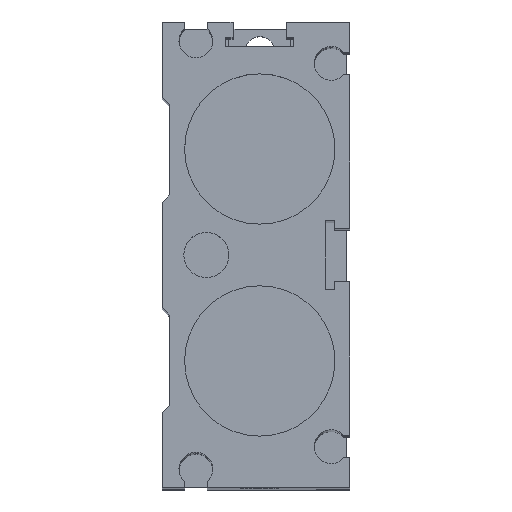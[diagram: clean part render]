
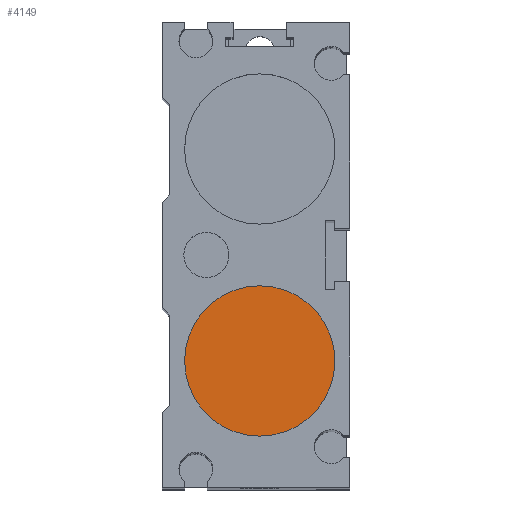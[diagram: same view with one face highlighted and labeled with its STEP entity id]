
A CAD part, top view. The second image highlights one B-rep face of the part: STEP entity #4149.
In plain terms, the highlighted planar face has unit normal (0, 0, 1).
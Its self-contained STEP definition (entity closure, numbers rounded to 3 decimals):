
#4126=CARTESIAN_POINT('',(10.0,-14.1,273.0));
#4127=VERTEX_POINT('',#4126);
#4128=CARTESIAN_POINT('',(0.0,-14.1,273.0));
#4129=DIRECTION('',(0.0,0.0,1.0));
#4130=DIRECTION('',(-1.0,0.0,0.0));
#4131=AXIS2_PLACEMENT_3D('',#4128,#4129,#4130);
#4132=CIRCLE('',#4131,10.0);
#4133=EDGE_CURVE('',#4127,#4127,#4132,.T.);
#4141=CARTESIAN_POINT('',(0.0,-14.1,273.0));
#4142=DIRECTION('',(0.0,0.0,-1.0));
#4143=DIRECTION('',(-1.0,0.0,0.0));
#4144=AXIS2_PLACEMENT_3D('',#4141,#4142,#4143);
#4145=PLANE('',#4144);
#4146=ORIENTED_EDGE('',*,*,#4133,.T.);
#4147=EDGE_LOOP('',(#4146));
#4148=FACE_OUTER_BOUND('',#4147,.T.);
#4149=ADVANCED_FACE('',(#4148),#4145,.F.);
